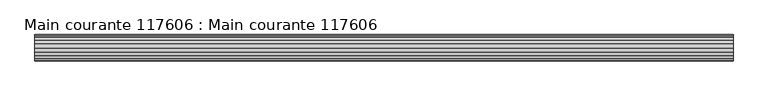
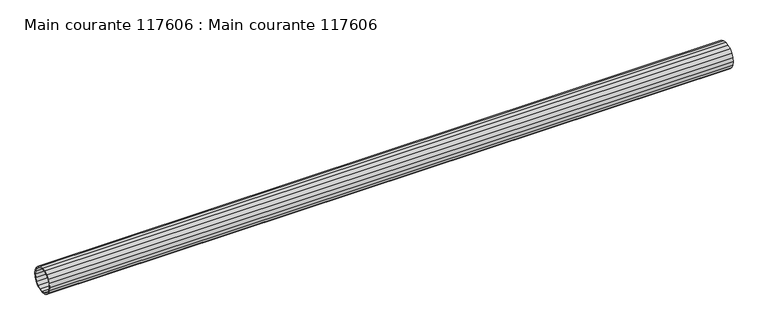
"""IFC4 building model written with IfcOpenShell, lengths in millimetres: beam geometry, Main courante 117606 : Main courante 117606."""

from ifc_helpers import new_model, si_unit, frame, origin, place, context, project, spatial, polyline, outline, extrude, source, transform, mapped, element, save


def main_courante_117606_main_courante_117606_9041653b(model_context):
    return source(origin(), model_context, "Body", "SweptSolid", [
        extrude(outline(polyline([(-35766.5, 8765.0), (-35765.3180149, 8772.4627604), (-35761.8877604, 8779.1950138), (-35756.5450138, 8784.5377604), (-35749.8127604, 8787.9680149), (-35742.35, 8789.15), (-35734.8872396, 8787.9680149), (-35728.1549862, 8784.5377604), (-35722.8122396, 8779.1950138), (-35719.3819851, 8772.4627604), (-35718.2, 8765.0), (-35719.3819851, 8757.5372396), (-35722.8122396, 8750.8049862), (-35728.1549862, 8745.4622396), (-35734.8872396, 8742.0319851), (-35742.35, 8740.85), (-35749.8127604, 8742.0319851), (-35756.5450138, 8745.4622396), (-35761.8877604, 8750.8049862), (-35765.3180149, 8757.5372396), (-35766.5, 8765.0)]), holes=[polyline([(-35764.0, 8765.0), (-35762.9403736, 8758.3097821), (-35759.8652179, 8752.2744493), (-35755.0755507, 8747.4847821), (-35749.0402179, 8744.4096264), (-35742.35, 8743.35), (-35735.6597821, 8744.4096264), (-35729.6244493, 8747.4847821), (-35724.8347821, 8752.2744493), (-35721.7596264, 8758.3097821), (-35720.7, 8765.0), (-35721.7596264, 8771.6902179), (-35724.8347821, 8777.7255507), (-35729.6244493, 8782.5152179), (-35735.6597821, 8785.5903736), (-35742.35, 8786.65), (-35749.0402179, 8785.5903736), (-35755.0755507, 8782.5152179), (-35759.8652179, 8777.7255507), (-35762.9403736, 8771.6902179), (-35764.0, 8765.0)])]), frame((5015.9999999, 0.0, 0.0), z_axis=(1.0, 0.0, 0.0), x_axis=(0.0, 1.0, 0.0)), (0.0, 0.0, 1.0), 1285.5),
    ])


if __name__ == "__main__":
    model = new_model("IFC4")
    model_context = context("Model", 3, world=origin())
    ifc_project = project(units=[si_unit("LENGTHUNIT", "METRE", prefix="MILLI")], contexts=[model_context])
    site = spatial("IfcSite", under=ifc_project)
    building = spatial("IfcBuilding", under=site)
    placement = place(None, origin())
    main_courante_117606_main_courante_117606_shape = main_courante_117606_main_courante_117606_9041653b(model_context)
    element("IfcBeam", 1, ObjectType="Main courante 117606 : Main courante 117606", at=placement, inside=building, context=model_context, shape_type="MappedRepresentation", body=[
        mapped(main_courante_117606_main_courante_117606_shape, transform((0.0, 0.0, 0.0), x_axis=(1.0, 0.0, 0.0), y_axis=(0.0, 1.0, 0.0), z_axis=(0.0, 0.0, 1.0))),
    ])
    save(model, "model.ifc")
